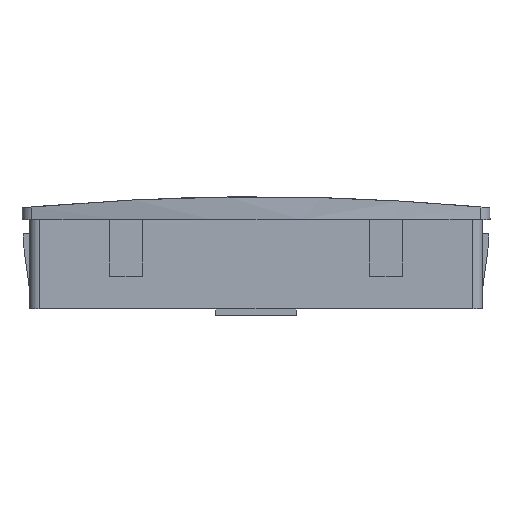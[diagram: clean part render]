
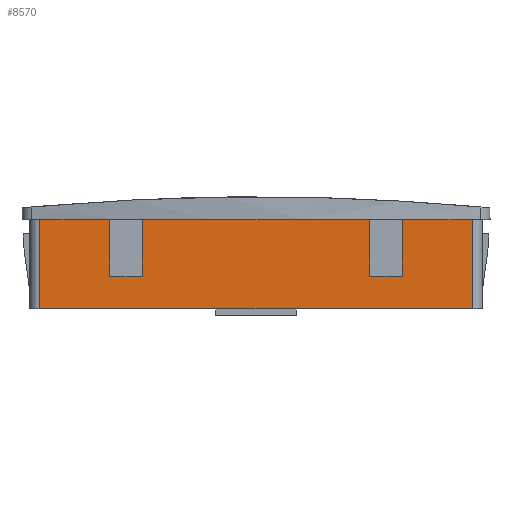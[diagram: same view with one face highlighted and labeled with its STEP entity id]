
A CAD part, front view. The second image highlights one B-rep face of the part: STEP entity #8570.
In plain terms, the highlighted planar face has unit normal (0, -1, 0).
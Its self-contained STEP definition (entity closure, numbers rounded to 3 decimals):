
#1360 = CARTESIAN_POINT ( 'NONE',  ( 33.3, -46.1, -15.2 ) ) ;
#1650 = CARTESIAN_POINT ( 'NONE',  ( 17.5, -46.1, -1.5 ) ) ;
#2257 = EDGE_CURVE ( 'NONE', #3875, #40595, #27573, .T. ) ;
#2949 = DIRECTION ( 'NONE',  ( -1., 0., 0. ) ) ;
#3875 = VERTEX_POINT ( 'NONE', #1360 ) ;
#3964 = CARTESIAN_POINT ( 'NONE',  ( -33.3, -46.1, -1.5 ) ) ;
#3999 = CARTESIAN_POINT ( 'NONE',  ( 33.3, -46.1, -15.2 ) ) ;
#4531 = LINE ( 'NONE', #14836, #15796 ) ;
#4598 = LINE ( 'NONE', #32964, #13492 ) ;
#4899 = CARTESIAN_POINT ( 'NONE',  ( 17.5, -46.1, -1.5 ) ) ;
#5474 = DIRECTION ( 'NONE',  ( 0., 0., -1. ) ) ;
#5976 = CARTESIAN_POINT ( 'NONE',  ( -33.3, -46.1, -15.2 ) ) ;
#6687 = CARTESIAN_POINT ( 'NONE',  ( -17.5, -46.1, -10.2 ) ) ;
#6790 = EDGE_CURVE ( 'NONE', #48853, #9750, #49049, .T. ) ;
#7710 = CARTESIAN_POINT ( 'NONE',  ( 22.5, -46.1, -1.5 ) ) ;
#8091 = VERTEX_POINT ( 'NONE', #6687 ) ;
#8430 = ORIENTED_EDGE ( 'NONE', *, *, #14130, .F. ) ;
#8570 = ADVANCED_FACE ( 'NONE', ( #34076 ), #48389, .F. ) ;
#9062 = ORIENTED_EDGE ( 'NONE', *, *, #24750, .F. ) ;
#9750 = VERTEX_POINT ( 'NONE', #13543 ) ;
#9783 = VECTOR ( 'NONE', #37977, 1000. ) ;
#10590 = VERTEX_POINT ( 'NONE', #39853 ) ;
#11010 = CARTESIAN_POINT ( 'NONE',  ( 34.8, -46.1, -1.5 ) ) ;
#11451 = CARTESIAN_POINT ( 'NONE',  ( 34.8, -46.1, -15.2 ) ) ;
#11523 = ORIENTED_EDGE ( 'NONE', *, *, #23429, .T. ) ;
#12438 = DIRECTION ( 'NONE',  ( 0., 0., -1. ) ) ;
#12598 = VERTEX_POINT ( 'NONE', #3964 ) ;
#12859 = VERTEX_POINT ( 'NONE', #18638 ) ;
#13492 = VECTOR ( 'NONE', #36765, 1000. ) ;
#13543 = CARTESIAN_POINT ( 'NONE',  ( -22.5, -46.1, -10.2 ) ) ;
#14130 = EDGE_CURVE ( 'NONE', #12859, #31085, #4531, .T. ) ;
#14836 = CARTESIAN_POINT ( 'NONE',  ( 22.5, -46.1, -1.5 ) ) ;
#15796 = VECTOR ( 'NONE', #45224, 1000. ) ;
#16273 = AXIS2_PLACEMENT_3D ( 'NONE', #18002, #25679, #2949 ) ;
#17221 = DIRECTION ( 'NONE',  ( 0., 0., -1. ) ) ;
#17663 = LINE ( 'NONE', #42989, #27792 ) ;
#17724 = VECTOR ( 'NONE', #48812, 1000. ) ;
#18002 = CARTESIAN_POINT ( 'NONE',  ( 34.8, -46.1, -15.2 ) ) ;
#18133 = ORIENTED_EDGE ( 'NONE', *, *, #38325, .F. ) ;
#18638 = CARTESIAN_POINT ( 'NONE',  ( 22.5, -46.1, -10.2 ) ) ;
#19591 = EDGE_CURVE ( 'NONE', #24303, #31085, #23749, .T. ) ;
#19883 = CARTESIAN_POINT ( 'NONE',  ( -22.5, -46.1, -1.5 ) ) ;
#20271 = ORIENTED_EDGE ( 'NONE', *, *, #45472, .F. ) ;
#20938 = CARTESIAN_POINT ( 'NONE',  ( -22.5, -46.1, -1.5 ) ) ;
#21331 = ORIENTED_EDGE ( 'NONE', *, *, #43000, .T. ) ;
#22532 = VECTOR ( 'NONE', #48991, 1000. ) ;
#23429 = EDGE_CURVE ( 'NONE', #12598, #40595, #29783, .T. ) ;
#23749 = LINE ( 'NONE', #11010, #22532 ) ;
#24214 = DIRECTION ( 'NONE',  ( -1., 0., 0. ) ) ;
#24303 = VERTEX_POINT ( 'NONE', #35552 ) ;
#24640 = VERTEX_POINT ( 'NONE', #32842 ) ;
#24688 = ORIENTED_EDGE ( 'NONE', *, *, #2257, .F. ) ;
#24750 = EDGE_CURVE ( 'NONE', #9750, #8091, #36217, .T. ) ;
#25025 = VECTOR ( 'NONE', #41815, 1000. ) ;
#25413 = CARTESIAN_POINT ( 'NONE',  ( -33.3, -46.1, -15.2 ) ) ;
#25679 = DIRECTION ( 'NONE',  ( 0., 1., 0. ) ) ;
#25711 = CARTESIAN_POINT ( 'NONE',  ( -22.5, -46.1, -10.2 ) ) ;
#26708 = LINE ( 'NONE', #1650, #35611 ) ;
#27573 = LINE ( 'NONE', #11451, #9783 ) ;
#27792 = VECTOR ( 'NONE', #24214, 1000. ) ;
#29515 = DIRECTION ( 'NONE',  ( 1., 0., 0. ) ) ;
#29619 = EDGE_LOOP ( 'NONE', ( #35108, #11523, #24688, #21331, #32643, #8430, #33787, #20271, #41712, #18133, #9062, #38388 ) ) ;
#29740 = CARTESIAN_POINT ( 'NONE',  ( 34.8, -46.1, -1.5 ) ) ;
#29783 = LINE ( 'NONE', #5976, #48782 ) ;
#30138 = EDGE_CURVE ( 'NONE', #10590, #12859, #45339, .T. ) ;
#31085 = VERTEX_POINT ( 'NONE', #7710 ) ;
#32643 = ORIENTED_EDGE ( 'NONE', *, *, #19591, .T. ) ;
#32842 = CARTESIAN_POINT ( 'NONE',  ( -17.5, -46.1, -1.5 ) ) ;
#32964 = CARTESIAN_POINT ( 'NONE',  ( -17.5, -46.1, -1.5 ) ) ;
#33787 = ORIENTED_EDGE ( 'NONE', *, *, #30138, .F. ) ;
#34076 = FACE_OUTER_BOUND ( 'NONE', #29619, .T. ) ;
#34683 = VERTEX_POINT ( 'NONE', #4899 ) ;
#35108 = ORIENTED_EDGE ( 'NONE', *, *, #46120, .T. ) ;
#35552 = CARTESIAN_POINT ( 'NONE',  ( 33.3, -46.1, -1.5 ) ) ;
#35611 = VECTOR ( 'NONE', #5474, 1000. ) ;
#35733 = EDGE_CURVE ( 'NONE', #34683, #24640, #17663, .T. ) ;
#36217 = LINE ( 'NONE', #25711, #45110 ) ;
#36735 = LINE ( 'NONE', #29740, #17724 ) ;
#36765 = DIRECTION ( 'NONE',  ( 0., 0., 1. ) ) ;
#37752 = VECTOR ( 'NONE', #12438, 1000. ) ;
#37963 = CARTESIAN_POINT ( 'NONE',  ( 22.5, -46.1, -10.2 ) ) ;
#37977 = DIRECTION ( 'NONE',  ( -1., 0., 0. ) ) ;
#38325 = EDGE_CURVE ( 'NONE', #8091, #24640, #4598, .T. ) ;
#38388 = ORIENTED_EDGE ( 'NONE', *, *, #6790, .F. ) ;
#39853 = CARTESIAN_POINT ( 'NONE',  ( 17.5, -46.1, -10.2 ) ) ;
#40595 = VERTEX_POINT ( 'NONE', #25413 ) ;
#41712 = ORIENTED_EDGE ( 'NONE', *, *, #35733, .T. ) ;
#41800 = DIRECTION ( 'NONE',  ( 1., 0., 0. ) ) ;
#41815 = DIRECTION ( 'NONE',  ( 0., 0., 1. ) ) ;
#42989 = CARTESIAN_POINT ( 'NONE',  ( 34.8, -46.1, -1.5 ) ) ;
#43000 = EDGE_CURVE ( 'NONE', #3875, #24303, #44012, .T. ) ;
#44012 = LINE ( 'NONE', #3999, #25025 ) ;
#44141 = VECTOR ( 'NONE', #41800, 1000. ) ;
#45110 = VECTOR ( 'NONE', #29515, 1000. ) ;
#45224 = DIRECTION ( 'NONE',  ( 0., 0., 1. ) ) ;
#45339 = LINE ( 'NONE', #37963, #44141 ) ;
#45472 = EDGE_CURVE ( 'NONE', #34683, #10590, #26708, .T. ) ;
#46120 = EDGE_CURVE ( 'NONE', #48853, #12598, #36735, .T. ) ;
#48389 = PLANE ( 'NONE',  #16273 ) ;
#48782 = VECTOR ( 'NONE', #17221, 1000. ) ;
#48812 = DIRECTION ( 'NONE',  ( -1., 0., 0. ) ) ;
#48853 = VERTEX_POINT ( 'NONE', #20938 ) ;
#48991 = DIRECTION ( 'NONE',  ( -1., 0., 0. ) ) ;
#49049 = LINE ( 'NONE', #19883, #37752 ) ;
